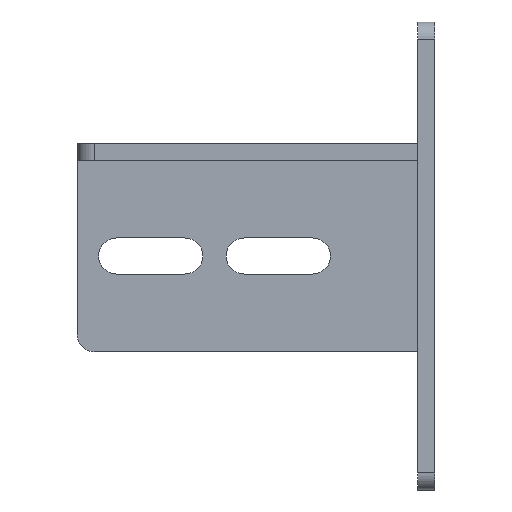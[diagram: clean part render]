
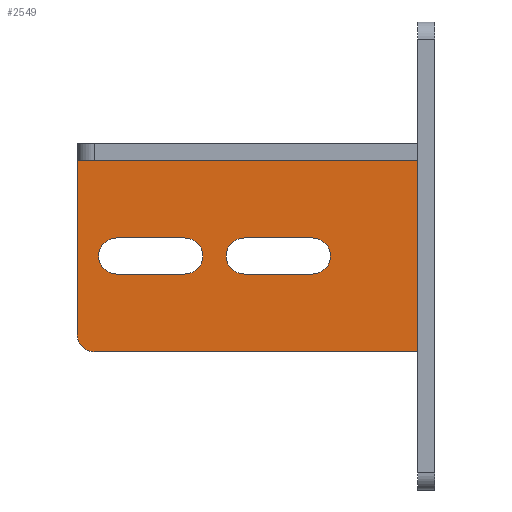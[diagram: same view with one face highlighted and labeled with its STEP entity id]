
A CAD part, left-side view. The second image highlights one B-rep face of the part: STEP entity #2549.
In plain terms, the highlighted planar face has unit normal (-1, 0, 0).
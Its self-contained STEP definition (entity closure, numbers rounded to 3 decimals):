
#12 = VERTEX_POINT ( 'NONE', #1763 ) ;
#29 = CIRCLE ( 'NONE', #2354, 4.25 ) ;
#45 = FACE_BOUND ( 'NONE', #914, .T. ) ;
#49 = EDGE_CURVE ( 'NONE', #59, #2684, #2405, .T. ) ;
#58 = CARTESIAN_POINT ( 'NONE',  ( 0., 0., 0. ) ) ;
#59 = VERTEX_POINT ( 'NONE', #559 ) ;
#66 = AXIS2_PLACEMENT_3D ( 'NONE', #1416, #2465, #2256 ) ;
#120 = CARTESIAN_POINT ( 'NONE',  ( 0., 0.75, -4.25 ) ) ;
#142 = DIRECTION ( 'NONE',  ( 1., 0., 0. ) ) ;
#176 = CARTESIAN_POINT ( 'NONE',  ( 0., 30.75, 4.25 ) ) ;
#180 = EDGE_LOOP ( 'NONE', ( #2536, #1439, #457, #851 ) ) ;
#191 = CARTESIAN_POINT ( 'NONE',  ( 0., 30.75, -4.25 ) ) ;
#201 = ORIENTED_EDGE ( 'NONE', *, *, #2024, .T. ) ;
#223 = VECTOR ( 'NONE', #2629, 1000. ) ;
#230 = CARTESIAN_POINT ( 'NONE',  ( 0., 30.75, 0. ) ) ;
#287 = LINE ( 'NONE', #1961, #745 ) ;
#313 = VERTEX_POINT ( 'NONE', #1306 ) ;
#338 = CARTESIAN_POINT ( 'NONE',  ( 0., 30.75, 4.25 ) ) ;
#361 = VECTOR ( 'NONE', #684, 1000. ) ;
#362 = CARTESIAN_POINT ( 'NONE',  ( 0., 0.75, 0. ) ) ;
#380 = CARTESIAN_POINT ( 'NONE',  ( 0., 0.75, -4.25 ) ) ;
#445 = DIRECTION ( 'NONE',  ( 1., 0., 0. ) ) ;
#450 = VECTOR ( 'NONE', #2204, 1000. ) ;
#457 = ORIENTED_EDGE ( 'NONE', *, *, #503, .T. ) ;
#497 = PLANE ( 'NONE',  #1946 ) ;
#503 = EDGE_CURVE ( 'NONE', #313, #1970, #1239, .T. ) ;
#542 = CARTESIAN_POINT ( 'NONE',  ( 0., 36., -22.5 ) ) ;
#559 = CARTESIAN_POINT ( 'NONE',  ( 0., 40., -18.5 ) ) ;
#575 = DIRECTION ( 'NONE',  ( 0., -1., 0. ) ) ;
#578 = DIRECTION ( 'NONE',  ( 0., 1., 0. ) ) ;
#579 = AXIS2_PLACEMENT_3D ( 'NONE', #230, #1651, #1058 ) ;
#586 = VERTEX_POINT ( 'NONE', #2064 ) ;
#594 = VERTEX_POINT ( 'NONE', #191 ) ;
#609 = ORIENTED_EDGE ( 'NONE', *, *, #1705, .F. ) ;
#614 = DIRECTION ( 'NONE',  ( 0., 0., -1. ) ) ;
#624 = CIRCLE ( 'NONE', #1103, 4.25 ) ;
#684 = DIRECTION ( 'NONE',  ( 0., -1., 0. ) ) ;
#690 = CARTESIAN_POINT ( 'NONE',  ( 0., 30.75, -4.25 ) ) ;
#706 = AXIS2_PLACEMENT_3D ( 'NONE', #2339, #2501, #614 ) ;
#745 = VECTOR ( 'NONE', #1129, 1000. ) ;
#813 = CARTESIAN_POINT ( 'NONE',  ( 0., -15.25, 4.25 ) ) ;
#826 = VERTEX_POINT ( 'NONE', #380 ) ;
#839 = ORIENTED_EDGE ( 'NONE', *, *, #1680, .F. ) ;
#851 = ORIENTED_EDGE ( 'NONE', *, *, #1606, .T. ) ;
#865 = FACE_OUTER_BOUND ( 'NONE', #1305, .T. ) ;
#914 = EDGE_LOOP ( 'NONE', ( #201, #2152, #971, #1883 ) ) ;
#930 = CARTESIAN_POINT ( 'NONE',  ( 0., 40., 22.5 ) ) ;
#934 = VERTEX_POINT ( 'NONE', #1876 ) ;
#971 = ORIENTED_EDGE ( 'NONE', *, *, #1406, .T. ) ;
#985 = DIRECTION ( 'NONE',  ( 0., -1., 0. ) ) ;
#1015 = CARTESIAN_POINT ( 'NONE',  ( 0., 0.75, 4.25 ) ) ;
#1058 = DIRECTION ( 'NONE',  ( 0., 0., -1. ) ) ;
#1103 = AXIS2_PLACEMENT_3D ( 'NONE', #2224, #142, #1988 ) ;
#1129 = DIRECTION ( 'NONE',  ( 0., 0., -1. ) ) ;
#1145 = LINE ( 'NONE', #120, #2261 ) ;
#1201 = DIRECTION ( 'NONE',  ( 0., 0., -1. ) ) ;
#1226 = EDGE_CURVE ( 'NONE', #12, #934, #287, .T. ) ;
#1239 = LINE ( 'NONE', #1015, #1879 ) ;
#1274 = ORIENTED_EDGE ( 'NONE', *, *, #1226, .F. ) ;
#1305 = EDGE_LOOP ( 'NONE', ( #2346, #2538, #839, #1274, #609 ) ) ;
#1306 = CARTESIAN_POINT ( 'NONE',  ( 0., 0.75, 4.25 ) ) ;
#1368 = LINE ( 'NONE', #2177, #450 ) ;
#1379 = VECTOR ( 'NONE', #1771, 1000. ) ;
#1383 = VECTOR ( 'NONE', #985, 1000. ) ;
#1406 = EDGE_CURVE ( 'NONE', #2269, #586, #2228, .T. ) ;
#1416 = CARTESIAN_POINT ( 'NONE',  ( 0., 36., -18.5 ) ) ;
#1439 = ORIENTED_EDGE ( 'NONE', *, *, #2630, .T. ) ;
#1483 = EDGE_CURVE ( 'NONE', #59, #2199, #2159, .T. ) ;
#1545 = CARTESIAN_POINT ( 'NONE',  ( 0., 40., 22.5 ) ) ;
#1546 = FACE_BOUND ( 'NONE', #180, .T. ) ;
#1606 = EDGE_CURVE ( 'NONE', #1970, #1780, #2391, .T. ) ;
#1651 = DIRECTION ( 'NONE',  ( 1., 0., 0. ) ) ;
#1680 = EDGE_CURVE ( 'NONE', #934, #2199, #1368, .T. ) ;
#1705 = EDGE_CURVE ( 'NONE', #2684, #12, #1726, .T. ) ;
#1726 = LINE ( 'NONE', #1545, #361 ) ;
#1763 = CARTESIAN_POINT ( 'NONE',  ( 0., -40., 22.5 ) ) ;
#1771 = DIRECTION ( 'NONE',  ( 0., 1., 0. ) ) ;
#1780 = VERTEX_POINT ( 'NONE', #2254 ) ;
#1876 = CARTESIAN_POINT ( 'NONE',  ( 0., -40., -22.5 ) ) ;
#1879 = VECTOR ( 'NONE', #575, 1000. ) ;
#1883 = ORIENTED_EDGE ( 'NONE', *, *, #2631, .T. ) ;
#1907 = LINE ( 'NONE', #690, #1379 ) ;
#1946 = AXIS2_PLACEMENT_3D ( 'NONE', #58, #445, #2553 ) ;
#1961 = CARTESIAN_POINT ( 'NONE',  ( 0., -40., 22.5 ) ) ;
#1970 = VERTEX_POINT ( 'NONE', #813 ) ;
#1988 = DIRECTION ( 'NONE',  ( 0., 0., -1. ) ) ;
#1995 = CARTESIAN_POINT ( 'NONE',  ( 0., 14.75, -4.25 ) ) ;
#2013 = DIRECTION ( 'NONE',  ( 1., 0., 0. ) ) ;
#2024 = EDGE_CURVE ( 'NONE', #2172, #594, #1907, .T. ) ;
#2064 = CARTESIAN_POINT ( 'NONE',  ( 0., 14.75, 4.25 ) ) ;
#2152 = ORIENTED_EDGE ( 'NONE', *, *, #2366, .T. ) ;
#2159 = CIRCLE ( 'NONE', #66, 4. ) ;
#2172 = VERTEX_POINT ( 'NONE', #1995 ) ;
#2173 = EDGE_CURVE ( 'NONE', #1780, #826, #1145, .T. ) ;
#2177 = CARTESIAN_POINT ( 'NONE',  ( 0., 40., -22.5 ) ) ;
#2199 = VERTEX_POINT ( 'NONE', #542 ) ;
#2204 = DIRECTION ( 'NONE',  ( 0., 1., 0. ) ) ;
#2213 = CIRCLE ( 'NONE', #579, 4.25 ) ;
#2224 = CARTESIAN_POINT ( 'NONE',  ( 0., 14.75, 0. ) ) ;
#2228 = LINE ( 'NONE', #338, #1383 ) ;
#2254 = CARTESIAN_POINT ( 'NONE',  ( 0., -15.25, -4.25 ) ) ;
#2256 = DIRECTION ( 'NONE',  ( 0., 0., -1. ) ) ;
#2261 = VECTOR ( 'NONE', #578, 1000. ) ;
#2269 = VERTEX_POINT ( 'NONE', #176 ) ;
#2339 = CARTESIAN_POINT ( 'NONE',  ( 0., -15.25, 0. ) ) ;
#2346 = ORIENTED_EDGE ( 'NONE', *, *, #49, .F. ) ;
#2354 = AXIS2_PLACEMENT_3D ( 'NONE', #362, #2013, #1201 ) ;
#2366 = EDGE_CURVE ( 'NONE', #594, #2269, #2213, .T. ) ;
#2391 = CIRCLE ( 'NONE', #706, 4.25 ) ;
#2405 = LINE ( 'NONE', #930, #223 ) ;
#2424 = CARTESIAN_POINT ( 'NONE',  ( 0., 40., 22.5 ) ) ;
#2465 = DIRECTION ( 'NONE',  ( -1., 0., 0. ) ) ;
#2501 = DIRECTION ( 'NONE',  ( 1., 0., 0. ) ) ;
#2536 = ORIENTED_EDGE ( 'NONE', *, *, #2173, .T. ) ;
#2538 = ORIENTED_EDGE ( 'NONE', *, *, #1483, .T. ) ;
#2549 = ADVANCED_FACE ( 'NONE', ( #45, #1546, #865 ), #497, .F. ) ;
#2553 = DIRECTION ( 'NONE',  ( 0., 0., -1. ) ) ;
#2629 = DIRECTION ( 'NONE',  ( 0., 0., 1. ) ) ;
#2630 = EDGE_CURVE ( 'NONE', #826, #313, #29, .T. ) ;
#2631 = EDGE_CURVE ( 'NONE', #586, #2172, #624, .T. ) ;
#2684 = VERTEX_POINT ( 'NONE', #2424 ) ;
